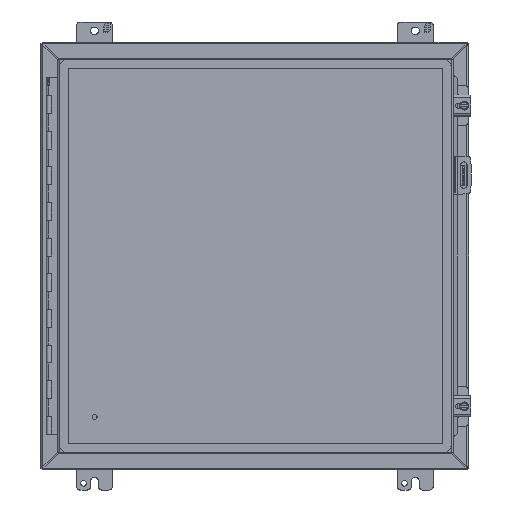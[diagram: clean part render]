
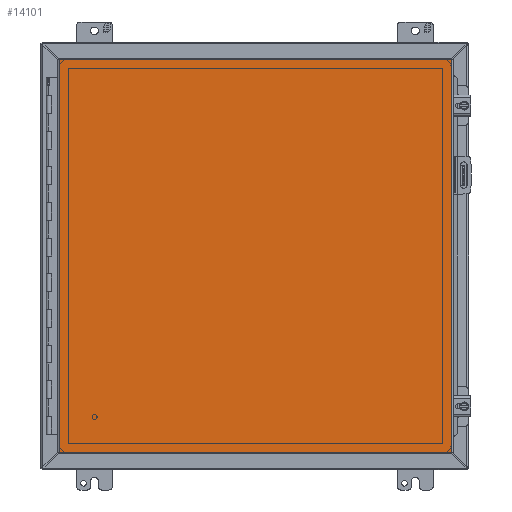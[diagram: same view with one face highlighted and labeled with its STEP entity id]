
A CAD part, front view. The second image highlights one B-rep face of the part: STEP entity #14101.
In plain terms, the highlighted planar face has unit normal (0, -1, 0).
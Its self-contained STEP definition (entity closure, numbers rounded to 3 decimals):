
#1325=LINE('',#22015,#2704);
#1326=LINE('',#22018,#2705);
#1327=LINE('',#22020,#2706);
#1328=LINE('',#22022,#2707);
#2704=VECTOR('',#17923,1000.);
#2705=VECTOR('',#17924,1000.);
#2706=VECTOR('',#17925,1000.);
#2707=VECTOR('',#17926,1000.);
#4975=ORIENTED_EDGE('',*,*,#8467,.T.);
#4976=ORIENTED_EDGE('',*,*,#8468,.T.);
#4977=ORIENTED_EDGE('',*,*,#8469,.T.);
#4978=ORIENTED_EDGE('',*,*,#8470,.T.);
#8467=EDGE_CURVE('',#10319,#10320,#1325,.T.);
#8468=EDGE_CURVE('',#10320,#10321,#1326,.T.);
#8469=EDGE_CURVE('',#10321,#10322,#1327,.T.);
#8470=EDGE_CURVE('',#10322,#10319,#1328,.T.);
#10319=VERTEX_POINT('',#22016);
#10320=VERTEX_POINT('',#22017);
#10321=VERTEX_POINT('',#22019);
#10322=VERTEX_POINT('',#22021);
#11788=EDGE_LOOP('',(#4975,#4976,#4977,#4978));
#12705=FACE_BOUND('',#11788,.T.);
#13478=PLANE('',#15768);
#14101=ADVANCED_FACE('',(#12705),#13478,.T.);
#15768=AXIS2_PLACEMENT_3D('',#22014,#17921,#17922);
#17921=DIRECTION('',(0.,-1.,0.));
#17922=DIRECTION('',(0.,0.,-1.));
#17923=DIRECTION('',(0.,0.,-1.));
#17924=DIRECTION('',(1.,0.,0.));
#17925=DIRECTION('',(0.,0.,1.));
#17926=DIRECTION('',(-1.,0.,0.));
#22014=CARTESIAN_POINT('',(-279.044,0.,-279.26));
#22015=CARTESIAN_POINT('',(-279.044,0.,279.26));
#22016=CARTESIAN_POINT('',(-279.044,0.,279.26));
#22017=CARTESIAN_POINT('',(-279.044,0.,-279.26));
#22018=CARTESIAN_POINT('',(-279.044,0.,-279.26));
#22019=CARTESIAN_POINT('',(279.044,0.,-279.26));
#22020=CARTESIAN_POINT('',(279.044,0.,-279.26));
#22021=CARTESIAN_POINT('',(279.044,0.,279.26));
#22022=CARTESIAN_POINT('',(279.044,0.,279.26));
